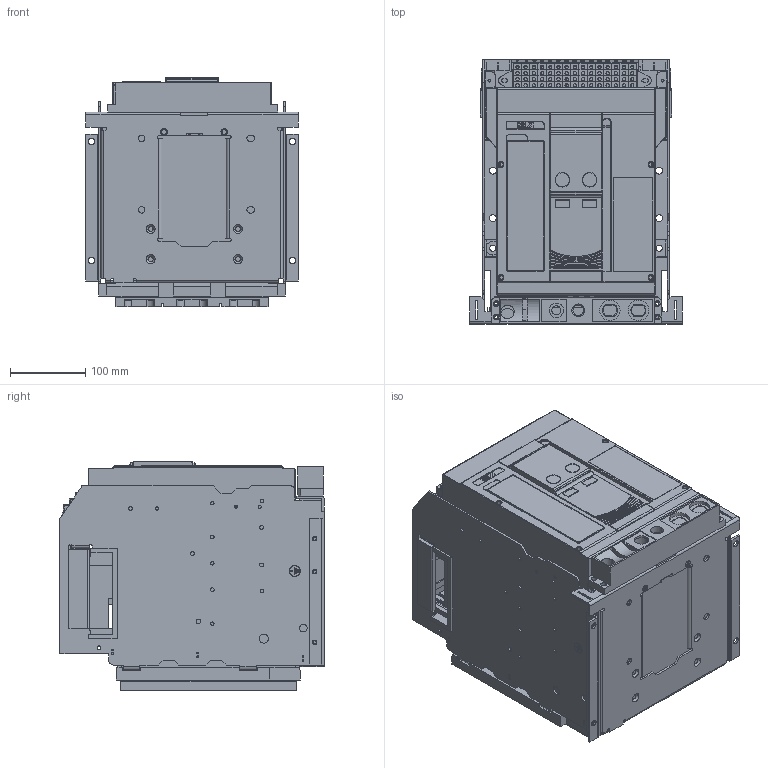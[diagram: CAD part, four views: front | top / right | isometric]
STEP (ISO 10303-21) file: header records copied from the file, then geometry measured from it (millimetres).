
FILE_DESCRIPTION (( 'STEP AP203' ), '1' );
FILE_NAME ('OptiMat A S1-630-1600-3P-D+.STEP', '2024-06-25T08:31:55', ( '' ), ( '' ), 'SwSTEP 2.0', 'SolidWorks 2018', '' );
FILE_SCHEMA (( 'CONFIG_CONTROL_DESIGN' ));
Products named in the file (1): OptiMat A S1-630-1600-3P-D+
Bounding box: 282 x 351 x 304.5 mm (x, y, z)
Surface area: 1509935.9 mm2 (no closed solid volume)
Topology: 0 solids, 176 shells, 2100 faces, 13571 edges, 11509 vertices
Faces by surface type: plane 1279, cylinder 704, bspline 59, torus 36, cone 22
Entity records: 160115 total; most frequent: CARTESIAN_POINT 65278, ORIENTED_EDGE 17683, DIRECTION 15933, EDGE_CURVE 13571, VERTEX_POINT 11509, VECTOR 9083, LINE 9083, AXIS2_PLACEMENT_3D 3425
